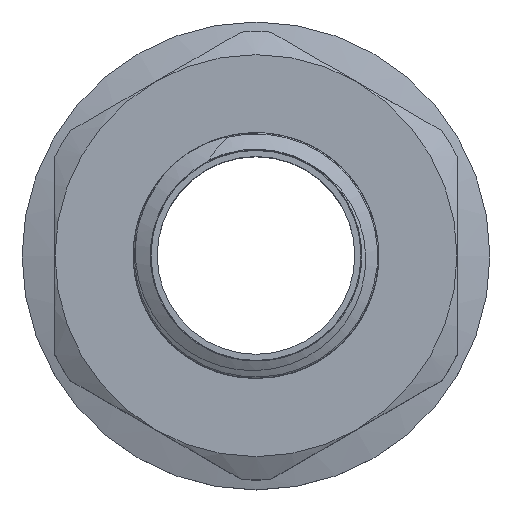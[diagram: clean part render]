
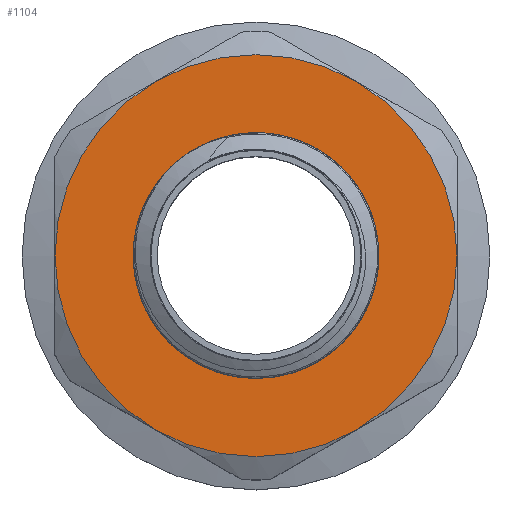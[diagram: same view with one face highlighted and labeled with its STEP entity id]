
A CAD part, top view. The second image highlights one B-rep face of the part: STEP entity #1104.
In plain terms, the highlighted planar face has unit normal (0, 0, 1).
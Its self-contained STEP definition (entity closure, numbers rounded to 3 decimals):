
#101=FACE_BOUND('',#309,.T.);
#212=PLANE('',#1223);
#242=FACE_OUTER_BOUND('',#308,.T.);
#308=EDGE_LOOP('',(#855,#856,#857,#858,#859,#860));
#309=EDGE_LOOP('',(#861,#862));
#355=CIRCLE('',#1168,15.25);
#357=CIRCLE('',#1171,15.25);
#359=CIRCLE('',#1174,15.25);
#360=CIRCLE('',#1176,15.25);
#362=CIRCLE('',#1179,15.25);
#364=CIRCLE('',#1182,15.25);
#368=CIRCLE('',#1192,7.97);
#371=CIRCLE('',#1195,7.97);
#428=VERTEX_POINT('',#1508);
#430=VERTEX_POINT('',#1514);
#432=VERTEX_POINT('',#1521);
#435=VERTEX_POINT('',#1533);
#438=VERTEX_POINT('',#1548);
#441=VERTEX_POINT('',#1560);
#455=VERTEX_POINT('',#1621);
#456=VERTEX_POINT('',#1622);
#549=EDGE_CURVE('',#428,#430,#355,.T.);
#553=EDGE_CURVE('',#432,#428,#357,.T.);
#557=EDGE_CURVE('',#435,#432,#359,.T.);
#559=EDGE_CURVE('',#438,#435,#360,.T.);
#563=EDGE_CURVE('',#441,#438,#362,.T.);
#567=EDGE_CURVE('',#430,#441,#364,.T.);
#585=EDGE_CURVE('',#455,#456,#368,.T.);
#589=EDGE_CURVE('',#456,#455,#371,.T.);
#855=ORIENTED_EDGE('',*,*,#567,.T.);
#856=ORIENTED_EDGE('',*,*,#563,.T.);
#857=ORIENTED_EDGE('',*,*,#559,.T.);
#858=ORIENTED_EDGE('',*,*,#557,.T.);
#859=ORIENTED_EDGE('',*,*,#553,.T.);
#860=ORIENTED_EDGE('',*,*,#549,.T.);
#861=ORIENTED_EDGE('',*,*,#585,.F.);
#862=ORIENTED_EDGE('',*,*,#589,.F.);
#1104=ADVANCED_FACE('',(#242,#101),#212,.T.);
#1168=AXIS2_PLACEMENT_3D('',#1518,#1273,#1274);
#1171=AXIS2_PLACEMENT_3D('',#1530,#1279,#1280);
#1174=AXIS2_PLACEMENT_3D('',#1542,#1285,#1286);
#1176=AXIS2_PLACEMENT_3D('',#1549,#1289,#1290);
#1179=AXIS2_PLACEMENT_3D('',#1561,#1295,#1296);
#1182=AXIS2_PLACEMENT_3D('',#1572,#1301,#1302);
#1192=AXIS2_PLACEMENT_3D('',#1623,#1328,#1329);
#1195=AXIS2_PLACEMENT_3D('',#1629,#1335,#1336);
#1223=AXIS2_PLACEMENT_3D('',#1702,#1399,#1400);
#1273=DIRECTION('center_axis',(0.,0.,1.));
#1274=DIRECTION('ref_axis',(0.,1.,0.));
#1279=DIRECTION('center_axis',(0.,0.,1.));
#1280=DIRECTION('ref_axis',(0.,1.,0.));
#1285=DIRECTION('center_axis',(0.,0.,1.));
#1286=DIRECTION('ref_axis',(0.,1.,0.));
#1289=DIRECTION('center_axis',(0.,0.,1.));
#1290=DIRECTION('ref_axis',(0.,1.,0.));
#1295=DIRECTION('center_axis',(0.,0.,1.));
#1296=DIRECTION('ref_axis',(0.,1.,0.));
#1301=DIRECTION('center_axis',(0.,0.,1.));
#1302=DIRECTION('ref_axis',(0.,1.,0.));
#1328=DIRECTION('center_axis',(0.,0.,1.));
#1329=DIRECTION('ref_axis',(1.,0.,0.));
#1335=DIRECTION('center_axis',(0.,0.,1.));
#1336=DIRECTION('ref_axis',(1.,0.,0.));
#1399=DIRECTION('center_axis',(0.,0.,1.));
#1400=DIRECTION('ref_axis',(1.,0.,0.));
#1508=CARTESIAN_POINT('',(-7.625,13.207,15.5));
#1514=CARTESIAN_POINT('',(-15.25,0.,15.5));
#1518=CARTESIAN_POINT('Origin',(0.,0.,15.5));
#1521=CARTESIAN_POINT('',(7.625,13.207,15.5));
#1530=CARTESIAN_POINT('Origin',(0.,0.,15.5));
#1533=CARTESIAN_POINT('',(15.25,0.,15.5));
#1542=CARTESIAN_POINT('Origin',(0.,0.,15.5));
#1548=CARTESIAN_POINT('',(7.625,-13.207,15.5));
#1549=CARTESIAN_POINT('Origin',(0.,0.,15.5));
#1560=CARTESIAN_POINT('',(-7.625,-13.207,15.5));
#1561=CARTESIAN_POINT('Origin',(0.,0.,15.5));
#1572=CARTESIAN_POINT('Origin',(0.,0.,15.5));
#1621=CARTESIAN_POINT('',(0.,7.97,15.5));
#1622=CARTESIAN_POINT('',(0.,-7.97,15.5));
#1623=CARTESIAN_POINT('Origin',(0.,0.,15.5));
#1629=CARTESIAN_POINT('Origin',(0.,0.,15.5));
#1702=CARTESIAN_POINT('Origin',(0.,-9.315,15.5));
